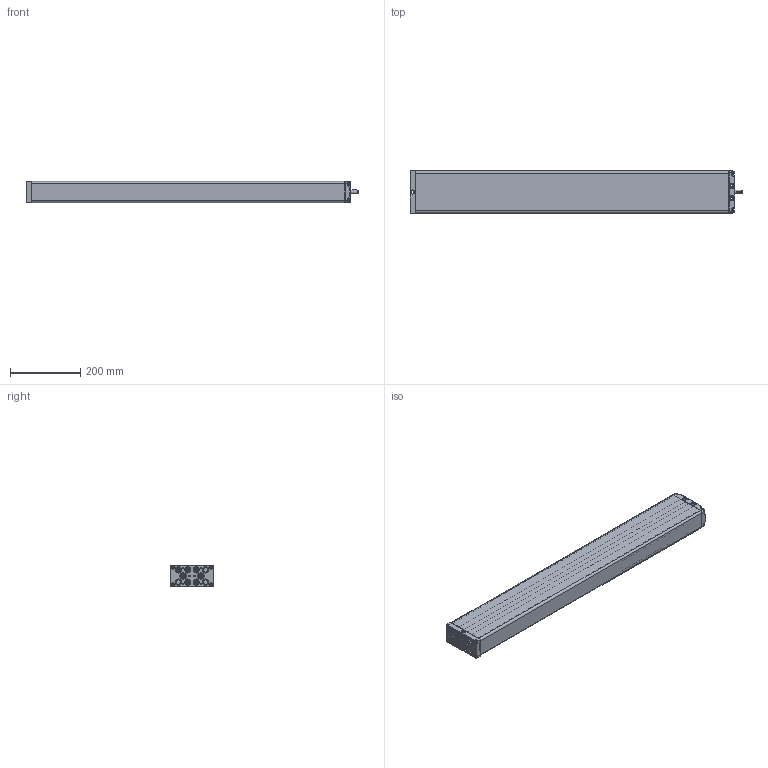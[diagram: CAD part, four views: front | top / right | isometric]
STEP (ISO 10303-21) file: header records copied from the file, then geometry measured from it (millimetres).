
FILE_DESCRIPTION(/* description */ ('Unknown'),/* implementation_level */ '2;1');
FILE_NAME(/* name */ '102.00294 Pumpe PB 7440 W',/* time_stamp */ '2016-11-25T11:54:59+01:00',/* author */ ('Unknown'),/* organization */ ('Unknown'),/* preprocessor_version */ 'ST-DEVELOPER v16.7',/* originating_system */ 'DEX',/* authorisation */ $);
FILE_SCHEMA (('AUTOMOTIVE_DESIGN {1 0 10303 214 3 1 1}'));
Products named in the file (15): 102.00294; 115.10027; 125.00031; 115.00007; 142.00021; 125.00021; 142.00013; 125.00147; 115.00140; 126.00006; 122.00040; 119.00047; 126.00036; 142.00057; 142.00017
Assembly tree (28 placements, depth 3):
  102.00294
    115.10027  x7
      125.00031
      115.00007
      142.00021
      125.00021
    142.00013  x8
    125.00147
    115.00140
      126.00006
      122.00040
    119.00047
    126.00036
    142.00057
    142.00017  x2
Bounding box: 945.5 x 120 x 60.3 mm (x, y, z)
Volume: 1100001 mm3; surface area: 770545.6 mm2
Topology: 37 solids, 37 shells, 2039 faces, 4675 edges, 2727 vertices
Faces by surface type: plane 699, cylinder 468, bspline 377, cone 338, torus 100, sphere 57
Full cylindrical faces by diameter (mm): 3.5 x7, 4.1 x7, 4.134 x4, 4.2 x7, 4.917 x2, 5 x8, 5.8 x4, 6 x2, 6.8 x1, 6.917 x14, 8 x15, 9 x7, 9.8 x8, 10 x5, 10.4 x1, 10.5 x4, 12.5 x7, 13 x24, 13.9 x14, 14 x1, 18 x11, 19 x1
Entity records: 59885 total; most frequent: CARTESIAN_POINT 28813, ORIENTED_EDGE 5026, DIRECTION 4363, EDGE_CURVE 2513, AXIS2_PLACEMENT_3D 1694, VERTEX_POINT 1584, FACE_BOUND 1391, EDGE_LOOP 1390
